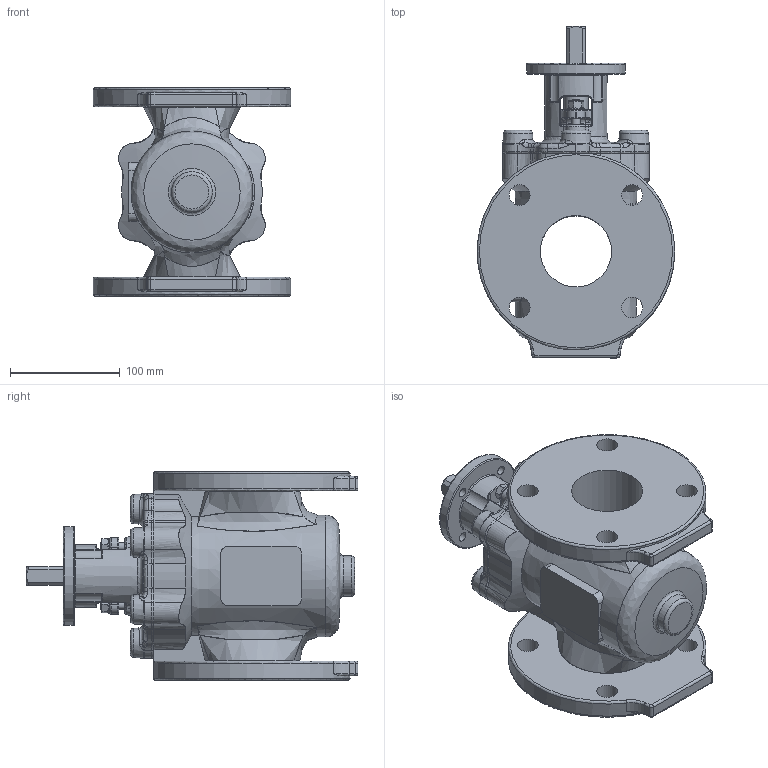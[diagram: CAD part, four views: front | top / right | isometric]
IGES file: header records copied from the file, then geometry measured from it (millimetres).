
Start section: SolidWorks IGES file using analytic representation for surfaces
Global section: file name: \\avksan2\techshare\PBM outline export from Enovia\O_764_01_DN065_1XXXXXX000_REV02.igs; native system: SolidWorks 2019; preprocessor: SolidWorks 2019; author: pbm; date: 210203.095030; units: millimetre
Bounding box: 179.91 x 302.5 x 190 mm (x, y, z)
Surface area: 277688.9 mm2 (no closed solid volume)
Topology: 0 solids, 0 shells, 620 faces, 3230 edges, 3157 vertices
Faces by surface type: revolution 331, bspline 289
